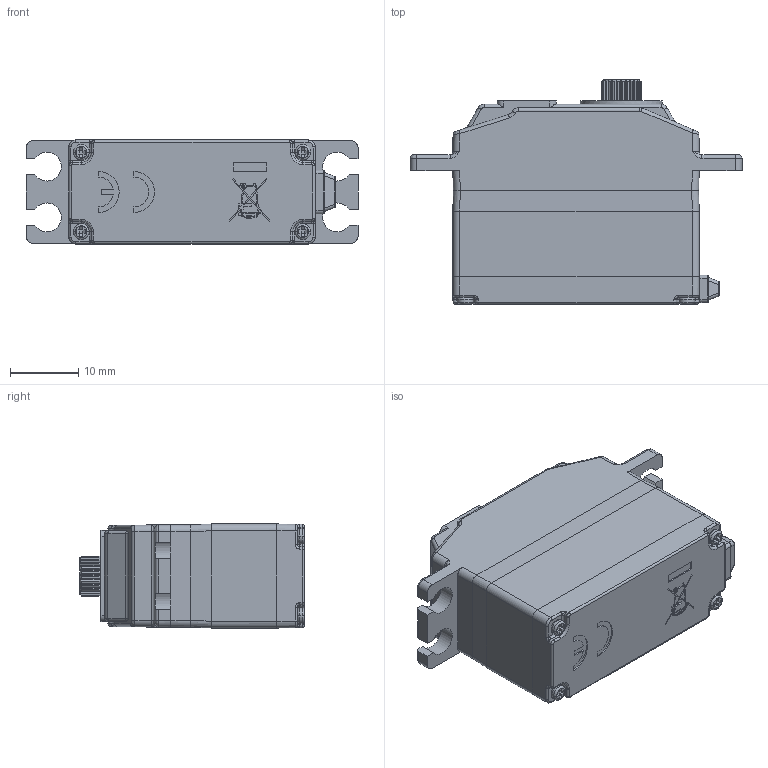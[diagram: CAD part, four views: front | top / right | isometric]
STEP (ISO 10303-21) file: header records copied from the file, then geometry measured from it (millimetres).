
FILE_DESCRIPTION((''),'2;1');
FILE_NAME('DDJ-25G-B26','2024-06-03T',('扂'),(''),'PRO/ENGINEER BY PARAMETRIC TECHNOLOGY CORPORATION, 2010280','PRO/ENGINEER BY PARAMETRIC TECHNOLOGY CORPORATION, 2010280','');
FILE_SCHEMA(('CONFIG_CONTROL_DESIGN'));
Length unit declared in the file: millimetre
Products named in the file (1): DDJ-25G-B26
Bounding box: 48.5 x 32.8 x 15.2 mm (x, y, z)
Volume: 15760.4 mm3; surface area: 4640.8 mm2
Topology: 1 solids, 1 shells, 730 faces, 1882 edges, 1180 vertices
Faces by surface type: plane 303, cylinder 282, bspline 67, torus 43, cone 29, extrusion 6
Entity records: 28052 total; most frequent: CARTESIAN_POINT 10814, ORIENTED_EDGE 3760, DIRECTION 3364, EDGE_CURVE 1880, VERTEX_POINT 1180, AXIS2_PLACEMENT_3D 1167, VECTOR 1030, LINE 1024
